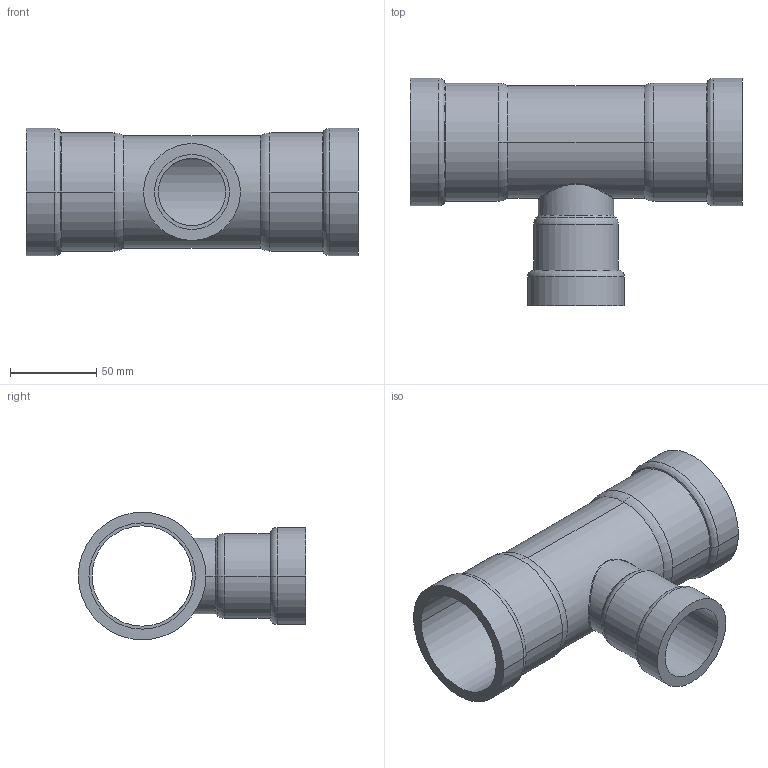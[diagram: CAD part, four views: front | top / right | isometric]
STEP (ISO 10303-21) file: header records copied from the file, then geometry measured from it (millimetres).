
FILE_DESCRIPTION(('Creo Elements/Direct Modeling STEP Export'),'2;1');
FILE_NAME('C9415_2_1-1-4_2.stp','2020-07-15T15:47:14',(''),(''),'PTC Creo Elements/Direct Modeling STEP processor for AP214 (Solid Model)','PTC Creo Elements/Direct Modeling 19.0C 15-Aug-2015 (C) Parametric Technology GmbH','');
FILE_SCHEMA(('AUTOMOTIVE_DESIGN { 1 0 10303 214 1 1 1 1 }'));
Length unit declared in the file: millimetre
Products named in the file (2): C9415_2_1-1-4_2
Assembly tree (1 placements, depth 2):
  C9415_2_1-1-4_2
    C9415_2_1-1-4_2
Bounding box: 192.02 x 131.45 x 73.8 mm (x, y, z)
Volume: 188749.1 mm3; surface area: 99306.8 mm2
Topology: 1 solids, 1 shells, 56 faces, 126 edges, 76 vertices
Faces by surface type: cylinder 26, torus 12, cone 8, plane 6, bspline 4
Entity records: 6263 total; most frequent: CARTESIAN_POINT 5100, ORIENTED_EDGE 252, DIRECTION 222, EDGE_CURVE 126, AXIS2_PLACEMENT_3D 94, VERTEX_POINT 76, EDGE_LOOP 64, FACE_OUTER_BOUND 56
